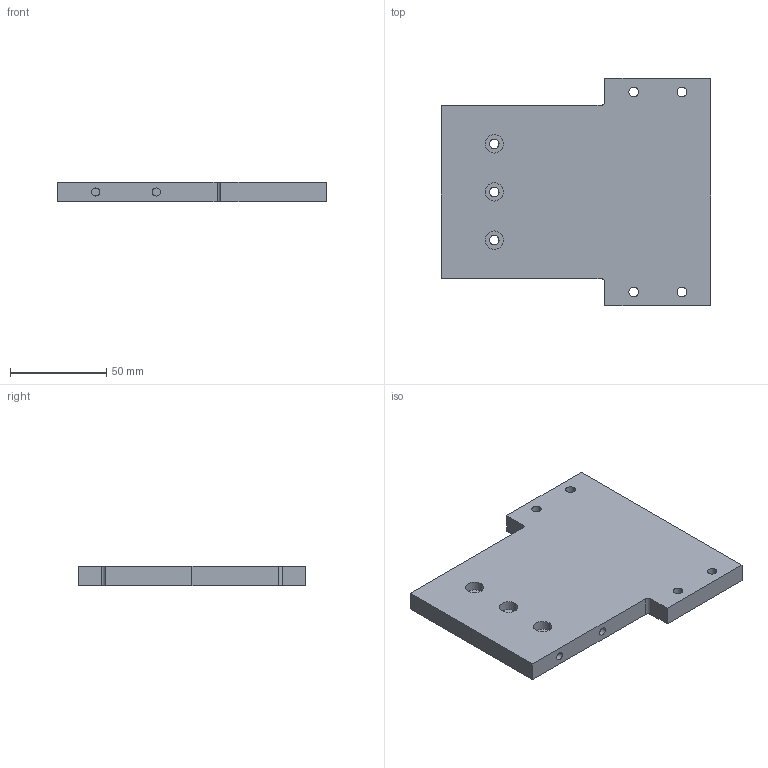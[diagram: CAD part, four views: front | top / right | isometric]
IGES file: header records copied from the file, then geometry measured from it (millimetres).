
Start section:  PTC IGES file: h90-k60m-bp-l.igs
Global section: file name: h90-k60m-bp-l.igs; native system: Pro/ENGINEER by Parametric Technology Corporation; preprocessor: 2008230; author: Owner; organization: Unknown; date: 20121211.133453; units: millimetre
Bounding box: 140 x 118 x 10 mm (x, y, z)
Surface area: 34726.9 mm2 (no closed solid volume)
Topology: 0 solids, 0 shells, 43 faces, 216 edges, 216 vertices
Faces by surface type: revolution 26, bspline 17
